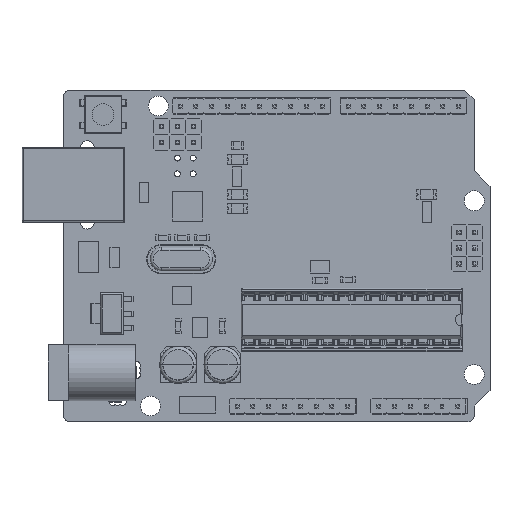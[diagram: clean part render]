
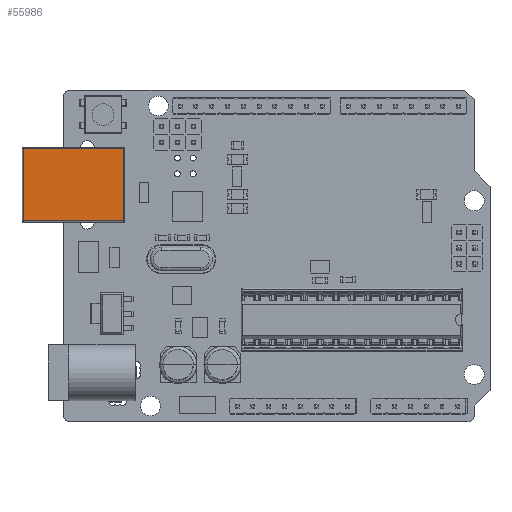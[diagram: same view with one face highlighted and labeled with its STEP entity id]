
A CAD part, top view. The second image highlights one B-rep face of the part: STEP entity #55986.
In plain terms, the highlighted planar face has unit normal (0, 0, 1) as drawn and (0, 0, -1) by its records, which use the part's own axes.
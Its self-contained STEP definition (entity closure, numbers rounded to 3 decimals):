
#55665 = EDGE_CURVE('',#55666,#55668,#55670,.T.);
#55666 = VERTEX_POINT('',#55667);
#55667 = CARTESIAN_POINT('',(5.82,-0.2,-5.45));
#55668 = VERTEX_POINT('',#55669);
#55669 = CARTESIAN_POINT('',(-5.82,-0.2,-5.45));
#55670 = LINE('',#55671,#55672);
#55671 = CARTESIAN_POINT('',(6.02,-0.2,-5.45));
#55672 = VECTOR('',#55673,1.);
#55673 = DIRECTION('',(-1.,0.,0.));
#55986 = ADVANCED_FACE('',(#55987),#56012,.T.);
#55987 = FACE_BOUND('',#55988,.T.);
#55988 = EDGE_LOOP('',(#55989,#55997,#55998,#56006));
#55989 = ORIENTED_EDGE('',*,*,#55990,.F.);
#55990 = EDGE_CURVE('',#55668,#55991,#55993,.T.);
#55991 = VERTEX_POINT('',#55992);
#55992 = CARTESIAN_POINT('',(-5.82,-16.3,-5.45));
#55993 = LINE('',#55994,#55995);
#55994 = CARTESIAN_POINT('',(-5.82,0.,-5.45));
#55995 = VECTOR('',#55996,1.);
#55996 = DIRECTION('',(0.,-1.,0.));
#55997 = ORIENTED_EDGE('',*,*,#55665,.F.);
#55998 = ORIENTED_EDGE('',*,*,#55999,.T.);
#55999 = EDGE_CURVE('',#55666,#56000,#56002,.T.);
#56000 = VERTEX_POINT('',#56001);
#56001 = CARTESIAN_POINT('',(5.82,-16.3,-5.45));
#56002 = LINE('',#56003,#56004);
#56003 = CARTESIAN_POINT('',(5.82,0.,-5.45));
#56004 = VECTOR('',#56005,1.);
#56005 = DIRECTION('',(0.,-1.,0.));
#56006 = ORIENTED_EDGE('',*,*,#56007,.T.);
#56007 = EDGE_CURVE('',#56000,#55991,#56008,.T.);
#56008 = LINE('',#56009,#56010);
#56009 = CARTESIAN_POINT('',(6.02,-16.3,-5.45));
#56010 = VECTOR('',#56011,1.);
#56011 = DIRECTION('',(-1.,0.,0.));
#56012 = PLANE('',#56013);
#56013 = AXIS2_PLACEMENT_3D('',#56014,#56015,#56016);
#56014 = CARTESIAN_POINT('',(6.02,0.,-5.45));
#56015 = DIRECTION('',(0.,0.,-1.));
#56016 = DIRECTION('',(-1.,-0.,0.));
